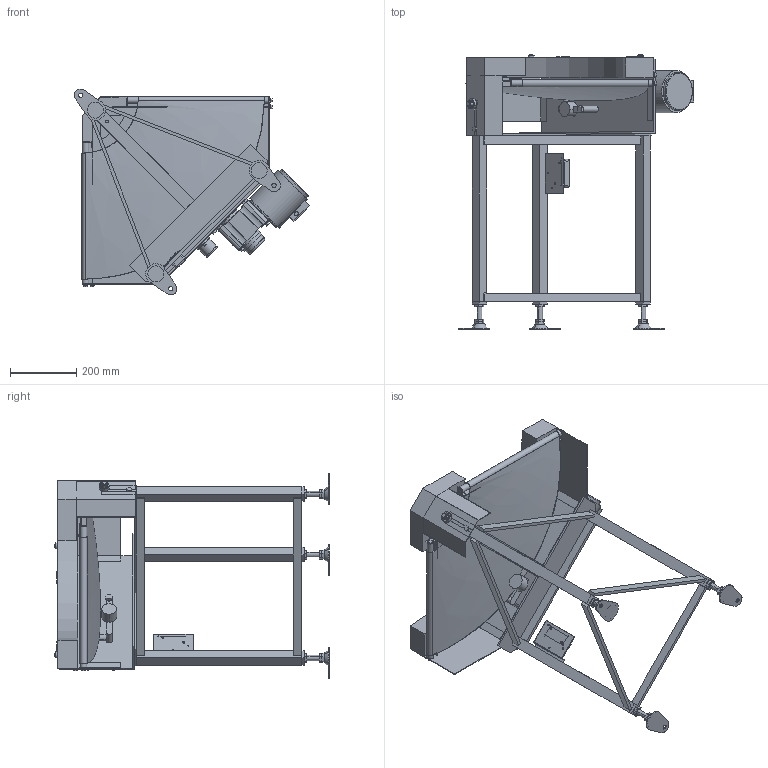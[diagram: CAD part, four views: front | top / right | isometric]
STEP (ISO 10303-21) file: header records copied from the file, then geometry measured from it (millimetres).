
FILE_DESCRIPTION( (''), '2;1');
FILE_NAME ('MMBC3-HS-310-300-90°-R-K-120.stp','2025-02-17T13:46:43',(''),(''),'spGate 20.6.2 (****-****-****-****)','','');
FILE_SCHEMA (('AUTOMOTIVE_DESIGN'));
Length unit declared in the file: millimetre
Products named in the file (44): NewModel; TEMP_X_T-prt0; TEMP_X_T-prt1; TEMP_X_T-prt2; TEMP_X_T-prt3; TEMP_X_T-prt4; TEMP_X_T-prt5; TEMP_X_T-prt6; TEMP_X_T-prt7; TEMP_X_T-prt8; TEMP_X_T-prt9; TEMP_X_T-prt10; TEMP_X_T-prt11; TEMP_X_T-prt12; TEMP_X_T-prt13; TEMP_X_T-prt14; TEMP_X_T-prt15; TEMP_X_T-prt16; TEMP_X_T-prt17; TEMP_X_T-prt18; TEMP_X_T-prt19; TEMP_X_T-prt20; TEMP_X_T-prt21; TEMP_X_T-prt22; TEMP_X_T-prt23; TEMP_X_T-prt24; TEMP_X_T-prt25; TEMP_X_T-prt26; TEMP_X_T-prt27; TEMP_X_T-prt28; TEMP_X_T-prt29; TEMP_X_T-prt30; TEMP_X_T-prt31; TEMP_X_T-prt32; TEMP_X_T-prt33; TEMP_X_T-prt34; TEMP_X_T-prt35; TEMP_X_T-prt36; TEMP_X_T-prt37; TEMP_X_T-prt38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
Assembly tree (43 placements, depth 2):
  NewModel
    TEMP_X_T-prt0
    TEMP_X_T-prt1
    TEMP_X_T-prt2
    TEMP_X_T-prt3
    TEMP_X_T-prt4
    TEMP_X_T-prt5
    TEMP_X_T-prt6
    TEMP_X_T-prt7
    TEMP_X_T-prt8
    TEMP_X_T-prt9
    TEMP_X_T-prt10
    TEMP_X_T-prt11
    TEMP_X_T-prt12
    TEMP_X_T-prt13
    TEMP_X_T-prt14
    TEMP_X_T-prt15
    TEMP_X_T-prt16
    TEMP_X_T-prt17
    TEMP_X_T-prt18
    TEMP_X_T-prt19
    TEMP_X_T-prt20
    TEMP_X_T-prt21
    TEMP_X_T-prt22
    TEMP_X_T-prt23
    TEMP_X_T-prt24
    TEMP_X_T-prt25
    TEMP_X_T-prt26
    TEMP_X_T-prt27
    TEMP_X_T-prt28
    TEMP_X_T-prt29
    TEMP_X_T-prt30
    TEMP_X_T-prt31
    TEMP_X_T-prt32
    TEMP_X_T-prt33
    TEMP_X_T-prt34
    TEMP_X_T-prt35
    TEMP_X_T-prt36
    TEMP_X_T-prt37
    TEMP_X_T-prt38
    TEMP_X_T-prt39
    TEMP_X_T-prt40
    TEMP_X_T-prt41
    TEMP_X_T-prt42
Bounding box: 709.29 x 827.92 x 620.53 mm (x, y, z)
Volume: 14291771.7 mm3; surface area: 3116469.7 mm2
Topology: 43 solids, 43 shells, 1165 faces, 2772 edges, 1807 vertices
Faces by surface type: plane 680, cylinder 363, bspline 110, sphere 12
Entity records: 61330 total; most frequent: CARTESIAN_POINT 10869, ORIENTED_EDGE 5516, DIRECTION 5445, COLOUR_RGB 3966, PRESENTATION_STYLE_ASSIGNMENT 3966, STYLED_ITEM 3966, EDGE_CURVE 2758, DRAUGHTING_PRE_DEFINED_CURVE_FONT 2758
